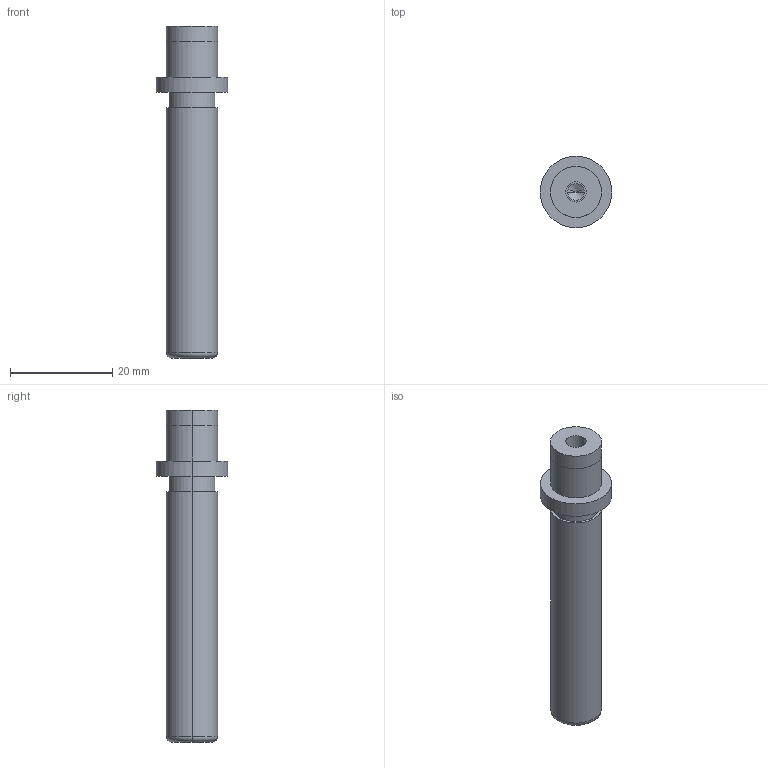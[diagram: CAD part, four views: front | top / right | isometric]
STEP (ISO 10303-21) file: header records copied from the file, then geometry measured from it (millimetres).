
FILE_DESCRIPTION(/* description */ (''),/* implementation_level */ '2;1');
FILE_NAME(/* name */ '3d_sgpw10-55_05293_r00.stp',/* time_stamp */ '2011-01-10T14:11:05+09:00',/* author */ ('MISUMI'),/* organization */ (''),/* preprocessor_version */ 'ST-DEVELOPER v11',/* originating_system */ 'UGS - NX 5.0',/* authorisation */ '');
FILE_SCHEMA (('CONFIG_CONTROL_DESIGN'));
Length unit declared in the file: millimetre
Products named in the file (1): 3d_sgpw10-55_05293_r00
Bounding box: 14 x 14 x 65 mm (x, y, z)
Volume: 4989.1 mm3; surface area: 2689.5 mm2
Topology: 1 solids, 1 shells, 31 faces, 64 edges, 38 vertices
Faces by surface type: cylinder 18, plane 7, cone 4, torus 2
Entity records: 890 total; most frequent: DIRECTION 162, CARTESIAN_POINT 130, ORIENTED_EDGE 120, AXIS2_PLACEMENT_3D 70, EDGE_CURVE 60, EDGE_LOOP 38, CIRCLE 38, VERTEX_POINT 38
